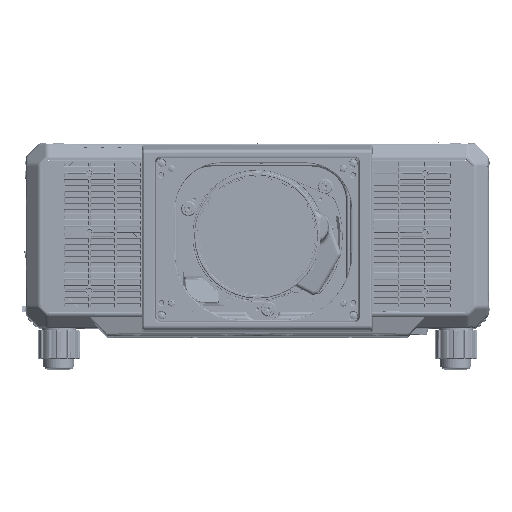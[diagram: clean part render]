
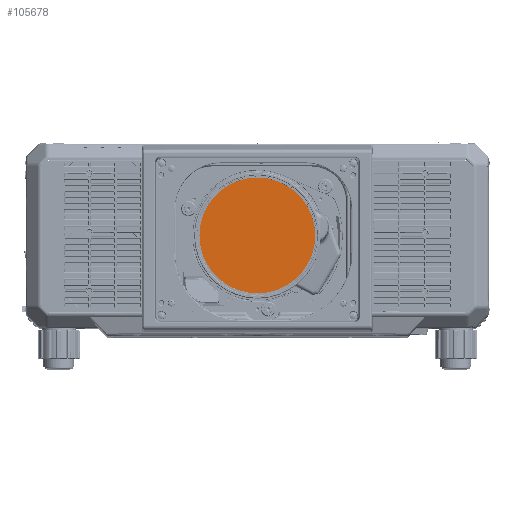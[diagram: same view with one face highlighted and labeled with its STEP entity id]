
A CAD part, top view. The second image highlights one B-rep face of the part: STEP entity #105678.
In plain terms, the highlighted planar face has unit normal (0, 0, 1).
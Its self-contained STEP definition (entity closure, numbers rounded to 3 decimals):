
#105678=ADVANCED_FACE('',(#120778),#110890,.F.);
#110890=PLANE('',#359142);
#120778=FACE_OUTER_BOUND('',#132818,.T.);
#132818=EDGE_LOOP('',(#198311));
#142189=CIRCLE('',#359141,68.8);
#198311=ORIENTED_EDGE('',*,*,#281745,.F.);
#235889=VERTEX_POINT('',#563986);
#281745=EDGE_CURVE('',#235889,#235889,#142189,.T.);
#359141=AXIS2_PLACEMENT_3D('',#563985,#435532,#435533);
#359142=AXIS2_PLACEMENT_3D('',#563987,#435534,#435535);
#435532=DIRECTION('',(0.,0.,-1.));
#435533=DIRECTION('',(1.,0.,0.));
#435534=DIRECTION('',(0.,0.,-1.));
#435535=DIRECTION('',(-1.,0.,0.));
#563985=CARTESIAN_POINT('',(0.,0.,483.146));
#563986=CARTESIAN_POINT('',(68.8,0.,483.146));
#563987=CARTESIAN_POINT('',(68.8,0.,483.146));
